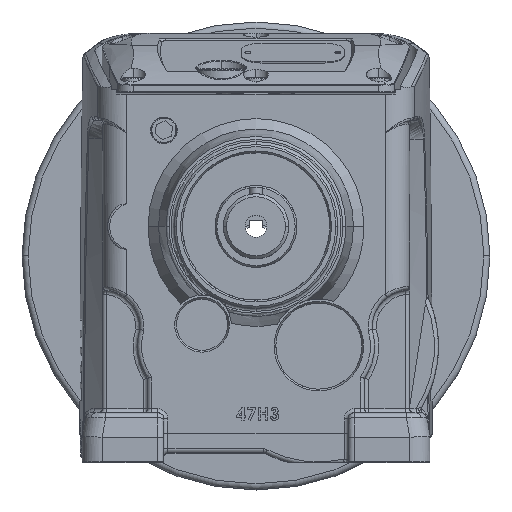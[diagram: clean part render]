
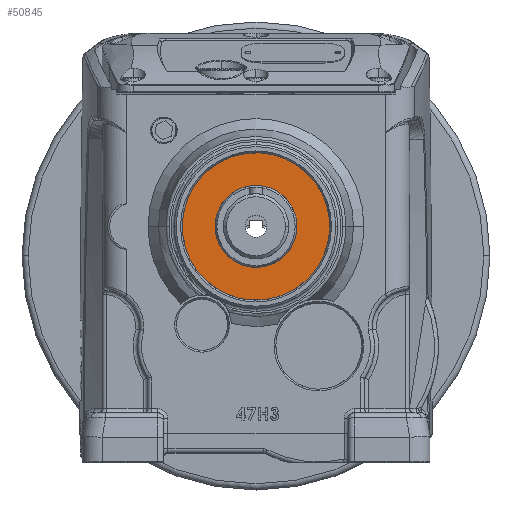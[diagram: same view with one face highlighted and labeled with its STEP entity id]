
A CAD part, top view. The second image highlights one B-rep face of the part: STEP entity #50845.
In plain terms, the highlighted planar face has unit normal (0, 0, 1).
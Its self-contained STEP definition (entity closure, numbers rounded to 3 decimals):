
#3972 = PLANE ( 'NONE',  #18998 ) ;
#3973 = CARTESIAN_POINT ( 'NONE',  ( 32.975, 96.054, 31. ) ) ;
#3974 = DIRECTION ( 'NONE',  ( 0., 0., -1. ) ) ;
#3975 = DIRECTION ( 'NONE',  ( 0.401, 0.916, 0. ) ) ;
#15629 = CARTESIAN_POINT ( 'NONE',  ( 0., 110.5, 31. ) ) ;
#15630 = DIRECTION ( 'NONE',  ( 0., 0., 1. ) ) ;
#15631 = DIRECTION ( 'NONE',  ( -0.401, -0.916, 0. ) ) ;
#15632 = CARTESIAN_POINT ( 'NONE',  ( 0., 110.5, 31. ) ) ;
#15633 = DIRECTION ( 'NONE',  ( 0., 0., 1. ) ) ;
#15634 = DIRECTION ( 'NONE',  ( -0.401, -0.916, 0. ) ) ;
#15635 = CARTESIAN_POINT ( 'NONE',  ( 0., 110.5, 31. ) ) ;
#15636 = DIRECTION ( 'NONE',  ( 0., 0., 1. ) ) ;
#15637 = DIRECTION ( 'NONE',  ( -0.401, -0.916, 0. ) ) ;
#15643 = CARTESIAN_POINT ( 'NONE',  ( 0., 110.5, 31. ) ) ;
#15644 = DIRECTION ( 'NONE',  ( 0., 0., 1. ) ) ;
#15645 = DIRECTION ( 'NONE',  ( -0.401, -0.916, 0. ) ) ;
#16065 = CIRCLE ( 'NONE', #16068, 20. ) ;
#16066 = CIRCLE ( 'NONE', #16071, 36. ) ;
#16068 = AXIS2_PLACEMENT_3D ( 'NONE', #15629, #15630, #15631 ) ;
#16069 = CIRCLE ( 'NONE', #16070, 20. ) ;
#16070 = AXIS2_PLACEMENT_3D ( 'NONE', #15632, #15633, #15634 ) ;
#16071 = AXIS2_PLACEMENT_3D ( 'NONE', #15635, #15636, #15637 ) ;
#16074 = CIRCLE ( 'NONE', #16076, 36. ) ;
#16076 = AXIS2_PLACEMENT_3D ( 'NONE', #15643, #15644, #15645 ) ;
#18998 = AXIS2_PLACEMENT_3D ( 'NONE', #3973, #3974, #3975 ) ;
#28788 = CARTESIAN_POINT ( 'NONE',  ( 14.446, 143.475, 31. ) ) ;
#28789 = CARTESIAN_POINT ( 'NONE',  ( -14.446, 77.525, 31. ) ) ;
#28790 = CARTESIAN_POINT ( 'NONE',  ( -8.025, 92.181, 31. ) ) ;
#28791 = CARTESIAN_POINT ( 'NONE',  ( 8.025, 128.819, 31. ) ) ;
#35260 = FACE_BOUND ( 'NONE', #44333, .T. ) ;
#35261 = FACE_OUTER_BOUND ( 'NONE', #44335, .T. ) ;
#36298 = EDGE_CURVE ( 'NONE', #59215, #59216, #16065, .T. ) ;
#36299 = EDGE_CURVE ( 'NONE', #59216, #59215, #16069, .T. ) ;
#36300 = EDGE_CURVE ( 'NONE', #59213, #59214, #16066, .T. ) ;
#36303 = EDGE_CURVE ( 'NONE', #59214, #59213, #16074, .T. ) ;
#44333 = EDGE_LOOP ( 'NONE', ( #56888, #56887 ) ) ;
#44335 = EDGE_LOOP ( 'NONE', ( #56885, #56886 ) ) ;
#50845 = ADVANCED_FACE ( 'NONE', ( #35260, #35261 ), #3972, .F. ) ;
#56885 = ORIENTED_EDGE ( 'NONE', *, *, #36303, .T. ) ;
#56886 = ORIENTED_EDGE ( 'NONE', *, *, #36300, .T. ) ;
#56887 = ORIENTED_EDGE ( 'NONE', *, *, #36299, .F. ) ;
#56888 = ORIENTED_EDGE ( 'NONE', *, *, #36298, .F. ) ;
#59213 = VERTEX_POINT ( 'NONE', #28788 ) ;
#59214 = VERTEX_POINT ( 'NONE', #28789 ) ;
#59215 = VERTEX_POINT ( 'NONE', #28790 ) ;
#59216 = VERTEX_POINT ( 'NONE', #28791 ) ;
